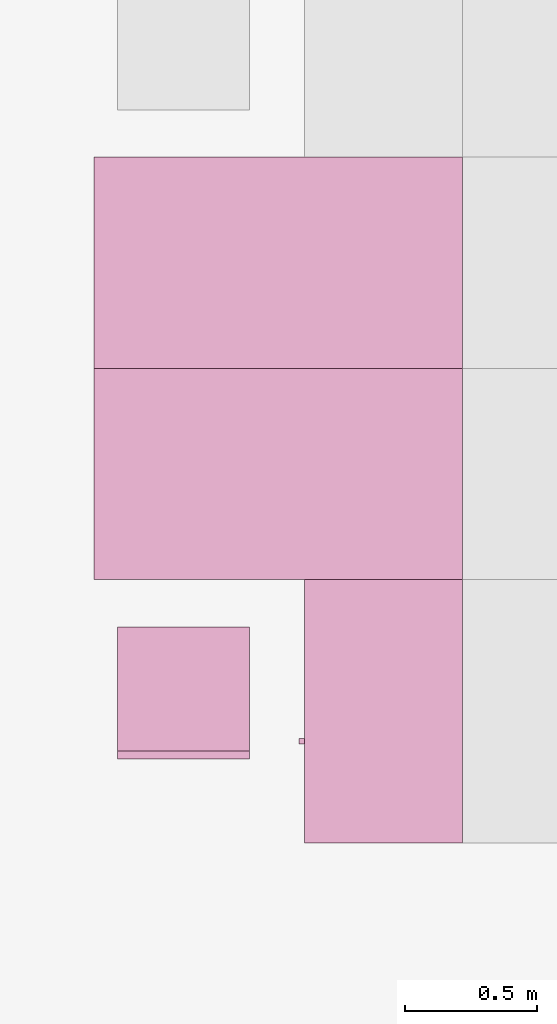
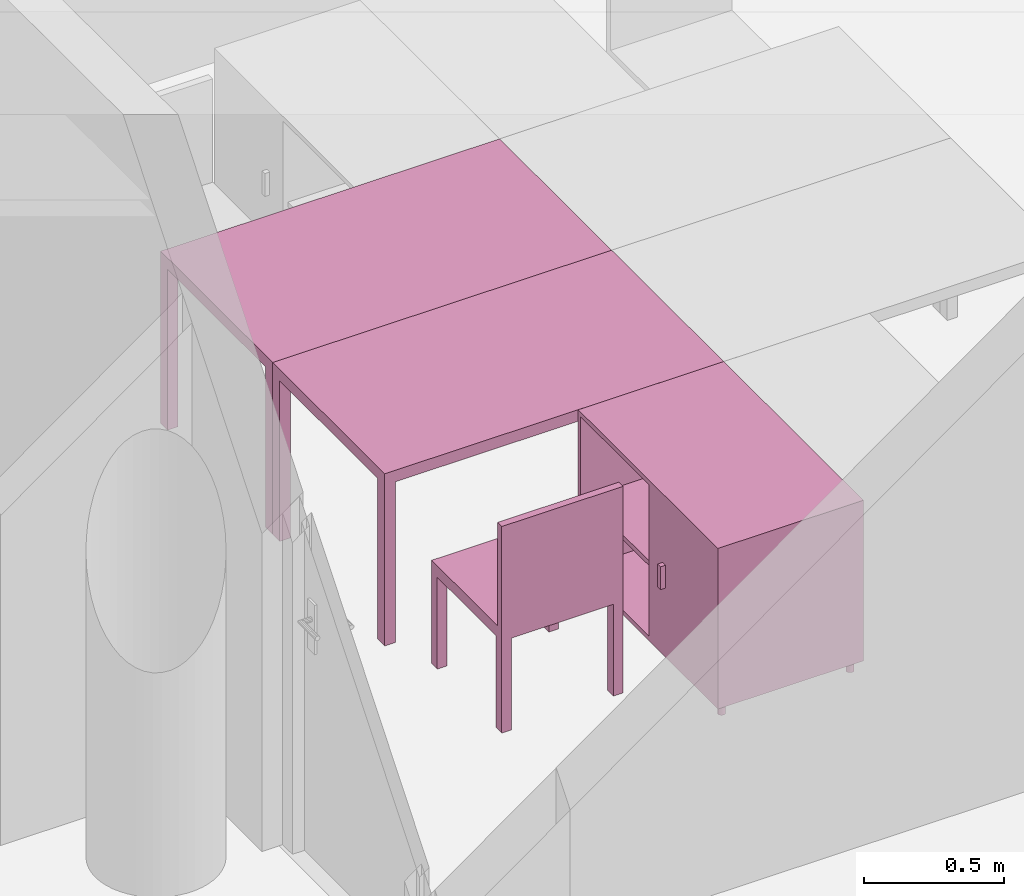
"""IFC4 building model written with IfcOpenShell, lengths in metres."""

from ifc_helpers import new_model, entity, si_unit, converted_unit, derived_unit, frame, origin, place, context, subcontext, project, spatial, faceted_brep, element, save


model = new_model("IFC4")

# Units and contexts
model_context = context("Model", 3, precision=1e-05, world=origin())
body_context = subcontext(model_context, "Body", "Model", "MODEL_VIEW")
ifc_project = project(units=[si_unit("LENGTHUNIT", "METRE"), si_unit("AREAUNIT", "SQUARE_METRE"), si_unit("VOLUMEUNIT", "CUBIC_METRE"), si_unit("MASSUNIT", "GRAM", prefix="KILO"), converted_unit("PLANEANGLEUNIT", "DEGREE", entity("IfcPlaneAngleMeasure", 0.0174532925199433), si_unit("PLANEANGLEUNIT", "RADIAN"), dimensions=[0, 0, 0, 0, 0, 0, 0]), derived_unit("THERMALTRANSMITTANCEUNIT", [(si_unit("POWERUNIT", "WATT"), 1), (si_unit("THERMODYNAMICTEMPERATUREUNIT", "KELVIN"), -1), (si_unit("LENGTHUNIT", "METRE"), -2)]), derived_unit("VOLUMETRICFLOWRATEUNIT", [(si_unit("LENGTHUNIT", "METRE"), 3), (converted_unit("TIMEUNIT", "hour", entity("IfcTimeMeasure", 3600.0), si_unit("TIMEUNIT", "SECOND"), dimensions=[0, 0, 1, 0, 0, 0, 0]), -1), (si_unit("LENGTHUNIT", "METRE"), -1)])], contexts=[model_context])

# Building, storeys
building_placement = place(None, origin())
building = spatial("IfcBuilding", under=ifc_project, at=building_placement, Name="HABITATGE PLURIFAMILIAR", CompositionType="ELEMENT")
storey_1_placement = place(building_placement, frame((0.0, 0.0, 6.25)))
storey_1 = spatial("IfcBuildingStorey", under=building, at=storey_1_placement, Name="PLANTA PRIMERA", CompositionType="ELEMENT", Elevation=6.25)
storey_2_placement = place(storey_1_placement, frame((0.0, 0.0, 3.35)))
storey_2 = spatial("IfcBuildingStorey", under=storey_1, at=storey_2_placement, Name="NOU", CompositionType="PARTIAL")

# Furniture
furniture_1_placement = place(storey_2_placement, frame((422.355885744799, 24.6290818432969, -3.35)))
element("IfcFurniture", 1, at=furniture_1_placement, inside=storey_2, Name="Taula 140X80_P1", context=body_context, shape_type="Brep", body=[
    faceted_brep([(0.04375, 0.750069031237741, 0.0), (0.04375, 0.800069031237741, 0.0), (0.0, 0.800069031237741, 0.0), (0.0, 0.750069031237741, 0.0), (0.04375, 0.800069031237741, 0.7), (0.04375, 0.750069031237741, 0.7), (0.0, 0.750069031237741, 0.7), (0.0, 0.800069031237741, 0.7)], [[[0, 1, 2, 3]], [[4, 5, 6, 7]], [[1, 0, 5, 4]], [[2, 1, 4, 7]], [[3, 2, 7, 6]], [[0, 3, 6, 5]]], orient=[[False], [False], [False], [False], [False], [False]]),
    faceted_brep([(0.04375, 0.0, 0.0), (0.04375, 0.05, 0.0), (0.0, 0.05, 0.0), (0.0, 0.0, 0.0), (0.04375, 0.05, 0.7), (0.04375, 0.0, 0.7), (0.0, 0.0, 0.7), (0.0, 0.05, 0.7)], [[[0, 1, 2, 3]], [[4, 5, 6, 7]], [[1, 0, 5, 4]], [[2, 1, 4, 7]], [[3, 2, 7, 6]], [[0, 3, 6, 5]]], orient=[[False], [False], [False], [False], [False], [False]]),
    faceted_brep([(1.39732768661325, 0.0, 0.7), (1.39732768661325, 0.800069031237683, 0.7), (0.0, 0.800069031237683, 0.7), (0.0, 0.0, 0.7), (1.39732768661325, 0.800069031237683, 0.75), (1.39732768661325, 0.0, 0.75), (0.0, 0.0, 0.75), (0.0, 0.800069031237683, 0.75)], [[[0, 1, 2, 3]], [[4, 5, 6, 7]], [[1, 0, 5, 4]], [[2, 1, 4, 7]], [[3, 2, 7, 6]], [[0, 3, 6, 5]]], orient=[[False], [False], [False], [False], [False], [False]]),
    faceted_brep([(1.39732768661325, 0.750069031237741, 0.0), (1.39732768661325, 0.800069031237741, 0.0), (1.35357768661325, 0.800069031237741, 0.0), (1.35357768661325, 0.750069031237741, 0.0), (1.39732768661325, 0.800069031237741, 0.7), (1.39732768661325, 0.750069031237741, 0.7), (1.35357768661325, 0.750069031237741, 0.7), (1.35357768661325, 0.800069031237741, 0.7)], [[[0, 1, 2, 3]], [[4, 5, 6, 7]], [[1, 0, 5, 4]], [[2, 1, 4, 7]], [[3, 2, 7, 6]], [[0, 3, 6, 5]]], orient=[[False], [False], [False], [False], [False], [False]]),
    faceted_brep([(1.39732768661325, 0.0, 0.0), (1.39732768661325, 0.05, 0.0), (1.35357768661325, 0.05, 0.0), (1.35357768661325, 0.0, 0.0), (1.39732768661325, 0.05, 0.7), (1.39732768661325, 0.0, 0.7), (1.35357768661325, 0.0, 0.7), (1.35357768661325, 0.05, 0.7)], [[[0, 1, 2, 3]], [[4, 5, 6, 7]], [[1, 0, 5, 4]], [[2, 1, 4, 7]], [[3, 2, 7, 6]], [[0, 3, 6, 5]]], orient=[[False], [False], [False], [False], [False], [False]]),
])
furniture_2_placement = place(storey_2_placement, frame((422.355885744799, 25.4291508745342, -3.35)))
element("IfcFurniture", 2, at=furniture_2_placement, inside=storey_2, Name="Taula 140X80_P1", context=body_context, shape_type="Brep", body=[
    faceted_brep([(0.04375, 0.05, 0.0), (0.0, 0.05, 0.0), (0.0, 0.0, 0.0), (0.04375, 0.0, 0.0), (0.04375, 0.0, 0.7), (0.0, 0.0, 0.7), (0.0, 0.05, 0.7), (0.04375, 0.05, 0.7)], [[[0, 1, 2, 3]], [[4, 5, 6, 7]], [[3, 4, 7, 0]], [[2, 5, 4, 3]], [[1, 6, 5, 2]], [[0, 7, 6, 1]]], orient=[[False], [False], [False], [False], [False], [False]]),
    faceted_brep([(0.04375, 0.800069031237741, 0.0), (0.0, 0.800069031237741, 0.0), (0.0, 0.750069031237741, 0.0), (0.04375, 0.750069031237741, 0.0), (0.04375, 0.750069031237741, 0.7), (0.0, 0.750069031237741, 0.7), (0.0, 0.800069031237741, 0.7), (0.04375, 0.800069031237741, 0.7)], [[[0, 1, 2, 3]], [[4, 5, 6, 7]], [[3, 4, 7, 0]], [[2, 5, 4, 3]], [[1, 6, 5, 2]], [[0, 7, 6, 1]]], orient=[[False], [False], [False], [False], [False], [False]]),
    faceted_brep([(1.39732768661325, 0.800069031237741, 0.7), (0.0, 0.800069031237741, 0.7), (0.0, 0.0, 0.7), (1.39732768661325, 0.0, 0.7), (1.39732768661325, 0.0, 0.75), (0.0, 0.0, 0.75), (0.0, 0.800069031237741, 0.75), (1.39732768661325, 0.800069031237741, 0.75)], [[[0, 1, 2, 3]], [[4, 5, 6, 7]], [[3, 4, 7, 0]], [[2, 5, 4, 3]], [[1, 6, 5, 2]], [[0, 7, 6, 1]]], orient=[[False], [False], [False], [False], [False], [False]]),
    faceted_brep([(1.39732768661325, 0.05, 0.0), (1.35357768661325, 0.05, 0.0), (1.35357768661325, 0.0, 0.0), (1.39732768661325, 0.0, 0.0), (1.39732768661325, 0.0, 0.7), (1.35357768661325, 0.0, 0.7), (1.35357768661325, 0.05, 0.7), (1.39732768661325, 0.05, 0.7)], [[[0, 1, 2, 3]], [[4, 5, 6, 7]], [[3, 4, 7, 0]], [[2, 5, 4, 3]], [[1, 6, 5, 2]], [[0, 7, 6, 1]]], orient=[[False], [False], [False], [False], [False], [False]]),
    faceted_brep([(1.39732768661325, 0.800069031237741, 0.0), (1.35357768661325, 0.800069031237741, 0.0), (1.35357768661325, 0.750069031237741, 0.0), (1.39732768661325, 0.750069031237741, 0.0), (1.39732768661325, 0.750069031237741, 0.7), (1.35357768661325, 0.750069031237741, 0.7), (1.35357768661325, 0.800069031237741, 0.7), (1.39732768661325, 0.800069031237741, 0.7)], [[[0, 1, 2, 3]], [[4, 5, 6, 7]], [[3, 4, 7, 0]], [[2, 5, 4, 3]], [[1, 6, 5, 2]], [[0, 7, 6, 1]]], orient=[[False], [False], [False], [False], [False], [False]]),
])
furniture_3_placement = place(storey_2_placement, frame((423.133213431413, 23.6321359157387, -3.35)))
element("IfcFurniture", 3, at=furniture_3_placement, inside=storey_2, Name="Taula 100X60_P1", context=body_context, shape_type="Brep", body=[
    faceted_brep([(0.620000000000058, 1.00000000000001, 0.05), (0.620000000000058, 1.00000000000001, 0.07), (0.02, 1.00000000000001, 0.07), (0.02, 1.00000000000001, 0.05), (0.02, 0.0, 0.07), (0.02, 0.0, 0.05), (0.620000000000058, 0.0, 0.07), (0.620000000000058, 0.0, 0.05)], [[[0, 1, 2, 3]], [[3, 2, 4, 5]], [[5, 4, 6, 7]], [[7, 6, 1, 0]], [[0, 3, 5, 7]], [[1, 6, 4, 2]]], orient=[[False], [False], [False], [False], [False], [False]]),
    faceted_brep([(0.04, 1.00000000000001, 0.35), (0.04, 0.0, 0.35), (0.62, 0.0, 0.35), (0.62, 1.00000000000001, 0.35), (0.62, 1.00000000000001, 0.37), (0.62, 0.0, 0.37), (0.04, 0.0, 0.37), (0.04, 1.00000000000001, 0.37)], [[[0, 1, 2, 3]], [[4, 5, 6, 7]], [[3, 4, 7, 0]], [[2, 5, 4, 3]], [[1, 6, 5, 2]], [[0, 7, 6, 1]]], orient=[[False], [False], [False], [False], [False], [False]]),
    faceted_brep([(0.04, 0.49, 0.75), (0.02, 0.49, 0.75), (0.02, 0.49, 0.05), (0.04, 0.49, 0.05), (0.02, 0.0, 0.05), (0.04, 0.0, 0.05), (0.02, 0.0, 0.75), (0.04, 0.0, 0.75)], [[[0, 1, 2, 3]], [[3, 2, 4, 5]], [[5, 4, 6, 7]], [[7, 6, 1, 0]], [[0, 3, 5, 7]], [[1, 6, 4, 2]]], orient=[[False], [False], [False], [False], [False], [False]]),
    faceted_brep([(0.62, 0.98, 0.75), (0.62, 1.0, 0.75), (0.620000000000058, 1.0, 0.0499999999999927), (0.620000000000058, 0.98, 0.0499999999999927), (0.02, 1.00000000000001, 0.05), (0.02, 0.980000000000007, 0.05), (0.02, 1.00000000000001, 0.75), (0.02, 0.980000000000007, 0.75)], [[[0, 1, 2, 3]], [[3, 2, 4, 5]], [[5, 4, 6, 7]], [[7, 6, 1, 0]], [[0, 3, 5, 7]], [[1, 6, 4, 2]]], orient=[[False], [False], [False], [False], [False], [False]]),
    faceted_brep([(0.62, 0.47, 0.75), (0.62, 0.49, 0.75), (0.620000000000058, 0.49, 0.0499999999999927), (0.620000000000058, 0.47, 0.0499999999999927), (0.02, 0.490000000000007, 0.05), (0.02, 0.470000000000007, 0.05), (0.02, 0.490000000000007, 0.75), (0.02, 0.470000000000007, 0.75)], [[[0, 1, 2, 3]], [[3, 2, 4, 5]], [[5, 4, 6, 7]], [[7, 6, 1, 0]], [[0, 3, 5, 7]], [[1, 6, 4, 2]]], orient=[[False], [False], [False], [False], [False], [False]]),
    faceted_brep([(0.620000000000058, 0.469999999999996, 0.75000000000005), (0.620000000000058, 0.490000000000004, 0.75000000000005), (0.620000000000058, 0.490000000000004, 0.0499999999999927), (0.620000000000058, 0.469999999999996, 0.0499999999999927), (0.0400000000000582, 0.49, 0.0499999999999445), (0.0400000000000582, 0.469999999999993, 0.0499999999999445), (0.04, 0.49, 0.750000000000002), (0.04, 0.469999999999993, 0.750000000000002)], [[[0, 1, 2, 3]], [[3, 2, 4, 5]], [[5, 4, 6, 7]], [[7, 6, 1, 0]], [[0, 3, 5, 7]], [[1, 6, 4, 2]]], orient=[[False], [False], [False], [False], [False], [False]]),
    faceted_brep([(0.62, 0.0, 0.75), (0.62, 0.02, 0.75), (0.620000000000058, 0.02, 0.0499999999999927), (0.620000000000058, 0.0, 0.0499999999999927), (0.02, 0.0200000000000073, 0.05), (0.02, 0.0, 0.05), (0.02, 0.0200000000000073, 0.75), (0.02, 0.0, 0.75)], [[[0, 1, 2, 3]], [[3, 2, 4, 5]], [[5, 4, 6, 7]], [[7, 6, 1, 0]], [[0, 3, 5, 7]], [[1, 6, 4, 2]]], orient=[[False], [False], [False], [False], [False], [False]]),
    faceted_brep([(0.620000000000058, 1.00000000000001, 0.73), (0.620000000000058, 1.00000000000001, 0.75), (0.02, 1.00000000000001, 0.75), (0.02, 1.00000000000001, 0.73), (0.02, 0.0, 0.75), (0.02, 0.0, 0.73), (0.620000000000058, 0.0, 0.75), (0.620000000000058, 0.0, 0.73)], [[[0, 1, 2, 3]], [[3, 2, 4, 5]], [[5, 4, 6, 7]], [[7, 6, 1, 0]], [[0, 3, 5, 7]], [[1, 6, 4, 2]]], orient=[[False], [False], [False], [False], [False], [False]]),
    faceted_brep([(0.62, 0.980000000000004, 0.75), (0.6, 0.980000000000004, 0.75), (0.6, 0.980000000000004, 0.05), (0.62, 0.980000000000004, 0.05), (0.6, 0.0, 0.05), (0.62, 0.0, 0.05), (0.6, 0.0, 0.75), (0.62, 0.0, 0.75)], [[[0, 1, 2, 3]], [[3, 2, 4, 5]], [[5, 4, 6, 7]], [[7, 6, 1, 0]], [[0, 3, 5, 7]], [[1, 6, 4, 2]]], orient=[[False], [False], [False], [False], [False], [False]]),
    faceted_brep([(0.02, 0.374420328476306, 0.35), (0.02, 0.394420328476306, 0.35), (0.0, 0.394420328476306, 0.35), (0.0, 0.374420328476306, 0.35), (0.02, 0.394420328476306, 0.45), (0.02, 0.374420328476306, 0.45), (0.0, 0.374420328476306, 0.45), (0.0, 0.394420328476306, 0.45)], [[[0, 1, 2, 3]], [[4, 5, 6, 7]], [[1, 0, 5, 4]], [[2, 1, 4, 7]], [[3, 2, 7, 6]], [[0, 3, 6, 5]]], orient=[[False], [False], [False], [False], [False], [False]]),
    faceted_brep([(0.583821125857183, 0.950063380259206, 0.0), (0.586415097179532, 0.950290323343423, 0.0), (0.588930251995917, 0.950964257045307, 0.0), (0.591290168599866, 0.952064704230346, 0.0), (0.59342314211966, 0.953558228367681, 0.0), (0.595264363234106, 0.95539944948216, 0.0), (0.596757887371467, 0.957532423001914, 0.0), (0.597858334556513, 0.959892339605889, 0.0), (0.598532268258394, 0.962407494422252, 0.0), (0.598759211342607, 0.965001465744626, 0.0), (0.598532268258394, 0.967595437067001, 0.0), (0.597858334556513, 0.970110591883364, 0.0), (0.596757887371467, 0.972470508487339, 0.0), (0.595264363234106, 0.974603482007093, 0.0), (0.59342314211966, 0.976444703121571, 0.0), (0.591290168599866, 0.977938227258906, 0.0), (0.588930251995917, 0.979038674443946, 0.0), (0.586415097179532, 0.97971260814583, 0.0), (0.583821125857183, 0.979939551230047, 0.0), (0.581227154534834, 0.97971260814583, 0.0), (0.578711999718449, 0.979038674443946, 0.0), (0.5763520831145, 0.977938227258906, 0.0), (0.574219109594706, 0.976444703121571, 0.0), (0.57237788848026, 0.974603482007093, 0.0), (0.570884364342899, 0.972470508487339, 0.0), (0.569783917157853, 0.970110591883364, 0.0), (0.569109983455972, 0.967595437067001, 0.0), (0.568883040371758, 0.965001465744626, 0.0), (0.569109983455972, 0.962407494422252, 0.0), (0.569783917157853, 0.959892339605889, 0.0), (0.570884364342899, 0.957532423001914, 0.0), (0.57237788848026, 0.95539944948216, 0.0), (0.574219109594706, 0.953558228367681, 0.0), (0.5763520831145, 0.952064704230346, 0.0), (0.578711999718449, 0.950964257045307, 0.0), (0.581227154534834, 0.950290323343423, 0.0), (0.583821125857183, 0.950063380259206, 0.05), (0.581227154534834, 0.950290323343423, 0.05), (0.578711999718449, 0.950964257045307, 0.05), (0.5763520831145, 0.952064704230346, 0.05), (0.574219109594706, 0.953558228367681, 0.05), (0.57237788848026, 0.95539944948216, 0.05), (0.570884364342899, 0.957532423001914, 0.05), (0.569783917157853, 0.959892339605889, 0.05), (0.569109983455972, 0.962407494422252, 0.05), (0.568883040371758, 0.965001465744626, 0.05), (0.569109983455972, 0.967595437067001, 0.05), (0.569783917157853, 0.970110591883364, 0.05), (0.570884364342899, 0.972470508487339, 0.05), (0.57237788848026, 0.974603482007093, 0.05), (0.574219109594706, 0.976444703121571, 0.05), (0.5763520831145, 0.977938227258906, 0.05), (0.578711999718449, 0.979038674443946, 0.05), (0.581227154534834, 0.97971260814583, 0.05), (0.583821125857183, 0.979939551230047, 0.05), (0.586415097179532, 0.97971260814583, 0.05), (0.588930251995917, 0.979038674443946, 0.05), (0.591290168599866, 0.977938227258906, 0.05), (0.59342314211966, 0.976444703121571, 0.05), (0.595264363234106, 0.974603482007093, 0.05), (0.596757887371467, 0.972470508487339, 0.05), (0.597858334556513, 0.970110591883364, 0.05), (0.598532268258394, 0.967595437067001, 0.05), (0.598759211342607, 0.965001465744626, 0.05), (0.598532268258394, 0.962407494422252, 0.05), (0.597858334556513, 0.959892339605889, 0.05), (0.596757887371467, 0.957532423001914, 0.05), (0.595264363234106, 0.95539944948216, 0.05), (0.59342314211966, 0.953558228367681, 0.05), (0.591290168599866, 0.952064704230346, 0.05), (0.588930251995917, 0.950964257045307, 0.05), (0.586415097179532, 0.950290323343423, 0.05)], [[[0, 1, 2, 3, 4, 5, 6, 7, 8, 9, 10, 11, 12, 13, 14, 15, 16, 17, 18, 19, 20, 21, 22, 23, 24, 25, 26, 27, 28, 29, 30, 31, 32, 33, 34, 35]], [[36, 37, 38, 39, 40, 41, 42, 43, 44, 45, 46, 47, 48, 49, 50, 51, 52, 53, 54, 55, 56, 57, 58, 59, 60, 61, 62, 63, 64, 65, 66, 67, 68, 69, 70, 71]], [[35, 37, 36, 0]], [[34, 38, 37, 35]], [[33, 39, 38, 34]], [[32, 40, 39, 33]], [[31, 41, 40, 32]], [[30, 42, 41, 31]], [[29, 43, 42, 30]], [[28, 44, 43, 29]], [[27, 45, 44, 28]], [[26, 46, 45, 27]], [[25, 47, 46, 26]], [[24, 48, 47, 25]], [[23, 49, 48, 24]], [[22, 50, 49, 23]], [[21, 51, 50, 22]], [[20, 52, 51, 21]], [[19, 53, 52, 20]], [[18, 54, 53, 19]], [[17, 55, 54, 18]], [[16, 56, 55, 17]], [[15, 57, 56, 16]], [[14, 58, 57, 15]], [[13, 59, 58, 14]], [[12, 60, 59, 13]], [[11, 61, 60, 12]], [[10, 62, 61, 11]], [[9, 63, 62, 10]], [[8, 64, 63, 9]], [[7, 65, 64, 8]], [[6, 66, 65, 7]], [[5, 67, 66, 6]], [[4, 68, 67, 5]], [[3, 69, 68, 4]], [[2, 70, 69, 3]], [[1, 71, 70, 2]], [[0, 36, 71, 1]]], orient=[[False], [False], [False], [False], [False], [False], [False], [False], [False], [False], [False], [False], [False], [False], [False], [False], [False], [False], [False], [False], [False], [False], [False], [False], [False], [False], [False], [False], [False], [False], [False], [False], [False], [False], [False], [False], [False], [False]]),
    faceted_brep([(0.0538211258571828, 0.950063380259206, 0.0), (0.0564150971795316, 0.950290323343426, 0.0), (0.0589302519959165, 0.950964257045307, 0.0), (0.0612901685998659, 0.952064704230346, 0.0), (0.06342314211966, 0.953558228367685, 0.0), (0.065264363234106, 0.95539944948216, 0.0), (0.0667578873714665, 0.957532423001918, 0.0), (0.067858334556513, 0.959892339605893, 0.0), (0.0685322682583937, 0.962407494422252, 0.0), (0.0687592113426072, 0.96500146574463, 0.0), (0.0685322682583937, 0.967595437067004, 0.0), (0.067858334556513, 0.970110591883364, 0.0), (0.0667578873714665, 0.972470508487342, 0.0), (0.065264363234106, 0.974603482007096, 0.0), (0.06342314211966, 0.976444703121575, 0.0), (0.0612901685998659, 0.977938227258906, 0.0), (0.0589302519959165, 0.979038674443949, 0.0), (0.0564150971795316, 0.979712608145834, 0.0), (0.0538211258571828, 0.979939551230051, 0.0), (0.051227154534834, 0.979712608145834, 0.0), (0.0487119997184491, 0.979038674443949, 0.0), (0.0463520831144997, 0.977938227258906, 0.0), (0.0442191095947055, 0.976444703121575, 0.0), (0.0423778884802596, 0.974603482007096, 0.0), (0.0408843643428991, 0.972470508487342, 0.0), (0.0397839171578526, 0.970110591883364, 0.0), (0.0391099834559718, 0.967595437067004, 0.0), (0.0388830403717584, 0.96500146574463, 0.0), (0.0391099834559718, 0.962407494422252, 0.0), (0.0397839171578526, 0.959892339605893, 0.0), (0.0408843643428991, 0.957532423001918, 0.0), (0.0423778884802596, 0.95539944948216, 0.0), (0.0442191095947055, 0.953558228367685, 0.0), (0.0463520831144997, 0.952064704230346, 0.0), (0.0487119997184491, 0.950964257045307, 0.0), (0.051227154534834, 0.950290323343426, 0.0), (0.0538211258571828, 0.950063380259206, 0.05), (0.051227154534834, 0.950290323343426, 0.05), (0.0487119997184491, 0.950964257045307, 0.05), (0.0463520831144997, 0.952064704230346, 0.05), (0.0442191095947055, 0.953558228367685, 0.05), (0.0423778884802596, 0.95539944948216, 0.05), (0.0408843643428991, 0.957532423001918, 0.05), (0.0397839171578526, 0.959892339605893, 0.05), (0.0391099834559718, 0.962407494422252, 0.05), (0.0388830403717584, 0.96500146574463, 0.05), (0.0391099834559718, 0.967595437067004, 0.05), (0.0397839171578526, 0.970110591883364, 0.05), (0.0408843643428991, 0.972470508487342, 0.05), (0.0423778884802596, 0.974603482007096, 0.05), (0.0442191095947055, 0.976444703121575, 0.05), (0.0463520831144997, 0.977938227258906, 0.05), (0.0487119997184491, 0.979038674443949, 0.05), (0.051227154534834, 0.979712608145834, 0.05), (0.0538211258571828, 0.979939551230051, 0.05), (0.0564150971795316, 0.979712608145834, 0.05), (0.0589302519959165, 0.979038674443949, 0.05), (0.0612901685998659, 0.977938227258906, 0.05), (0.06342314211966, 0.976444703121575, 0.05), (0.065264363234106, 0.974603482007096, 0.05), (0.0667578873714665, 0.972470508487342, 0.05), (0.067858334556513, 0.970110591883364, 0.05), (0.0685322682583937, 0.967595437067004, 0.05), (0.0687592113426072, 0.96500146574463, 0.05), (0.0685322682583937, 0.962407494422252, 0.05), (0.067858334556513, 0.959892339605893, 0.05), (0.0667578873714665, 0.957532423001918, 0.05), (0.065264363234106, 0.95539944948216, 0.05), (0.06342314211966, 0.953558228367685, 0.05), (0.0612901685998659, 0.952064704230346, 0.05), (0.0589302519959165, 0.950964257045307, 0.05), (0.0564150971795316, 0.950290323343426, 0.05)], [[[0, 1, 2, 3, 4, 5, 6, 7, 8, 9, 10, 11, 12, 13, 14, 15, 16, 17, 18, 19, 20, 21, 22, 23, 24, 25, 26, 27, 28, 29, 30, 31, 32, 33, 34, 35]], [[36, 37, 38, 39, 40, 41, 42, 43, 44, 45, 46, 47, 48, 49, 50, 51, 52, 53, 54, 55, 56, 57, 58, 59, 60, 61, 62, 63, 64, 65, 66, 67, 68, 69, 70, 71]], [[35, 37, 36, 0]], [[34, 38, 37, 35]], [[33, 39, 38, 34]], [[32, 40, 39, 33]], [[31, 41, 40, 32]], [[30, 42, 41, 31]], [[29, 43, 42, 30]], [[28, 44, 43, 29]], [[27, 45, 44, 28]], [[26, 46, 45, 27]], [[25, 47, 46, 26]], [[24, 48, 47, 25]], [[23, 49, 48, 24]], [[22, 50, 49, 23]], [[21, 51, 50, 22]], [[20, 52, 51, 21]], [[19, 53, 52, 20]], [[18, 54, 53, 19]], [[17, 55, 54, 18]], [[16, 56, 55, 17]], [[15, 57, 56, 16]], [[14, 58, 57, 15]], [[13, 59, 58, 14]], [[12, 60, 59, 13]], [[11, 61, 60, 12]], [[10, 62, 61, 11]], [[9, 63, 62, 10]], [[8, 64, 63, 9]], [[7, 65, 64, 8]], [[6, 66, 65, 7]], [[5, 67, 66, 6]], [[4, 68, 67, 5]], [[3, 69, 68, 4]], [[2, 70, 69, 3]], [[1, 71, 70, 2]], [[0, 36, 71, 1]]], orient=[[False], [False], [False], [False], [False], [False], [False], [False], [False], [False], [False], [False], [False], [False], [False], [False], [False], [False], [False], [False], [False], [False], [False], [False], [False], [False], [False], [False], [False], [False], [False], [False], [False], [False], [False], [False], [False], [False]]),
    faceted_brep([(0.0550000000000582, 0.0200170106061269, 0.0), (0.057593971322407, 0.0202439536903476, 0.0), (0.0601091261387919, 0.0209178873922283, 0.0), (0.0624690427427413, 0.0220183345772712, 0.0), (0.0646020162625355, 0.0235118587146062, 0.0), (0.0664432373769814, 0.0253530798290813, 0.0), (0.0679367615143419, 0.0274860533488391, 0.0), (0.0690372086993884, 0.0298459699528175, 0.0), (0.0697111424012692, 0.0323611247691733, 0.0), (0.0699380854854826, 0.0349550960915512, 0.0), (0.0697111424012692, 0.0375490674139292, 0.0), (0.0690372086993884, 0.0400642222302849, 0.0), (0.0679367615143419, 0.0424241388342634, 0.0), (0.0664432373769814, 0.0445571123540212, 0.0), (0.0646020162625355, 0.0463983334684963, 0.0), (0.0624690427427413, 0.0478918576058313, 0.0), (0.0601091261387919, 0.0489923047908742, 0.0), (0.057593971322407, 0.0496662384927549, 0.0), (0.0550000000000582, 0.0498931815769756, 0.0), (0.0524060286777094, 0.0496662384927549, 0.0), (0.0498908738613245, 0.0489923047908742, 0.0), (0.0475309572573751, 0.0478918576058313, 0.0), (0.0453979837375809, 0.0463983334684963, 0.0), (0.043556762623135, 0.0445571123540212, 0.0), (0.0420632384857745, 0.0424241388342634, 0.0), (0.040962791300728, 0.0400642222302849, 0.0), (0.0402888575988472, 0.0375490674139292, 0.0), (0.0400619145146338, 0.0349550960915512, 0.0), (0.0402888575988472, 0.0323611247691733, 0.0), (0.040962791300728, 0.0298459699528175, 0.0), (0.0420632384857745, 0.0274860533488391, 0.0), (0.043556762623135, 0.0253530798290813, 0.0), (0.0453979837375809, 0.0235118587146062, 0.0), (0.0475309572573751, 0.0220183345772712, 0.0), (0.0498908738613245, 0.0209178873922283, 0.0), (0.0524060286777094, 0.0202439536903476, 0.0), (0.0550000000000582, 0.0200170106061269, 0.05), (0.0524060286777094, 0.0202439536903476, 0.05), (0.0498908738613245, 0.0209178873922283, 0.05), (0.0475309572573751, 0.0220183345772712, 0.05), (0.0453979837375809, 0.0235118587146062, 0.05), (0.043556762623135, 0.0253530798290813, 0.05), (0.0420632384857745, 0.0274860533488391, 0.05), (0.040962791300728, 0.0298459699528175, 0.05), (0.0402888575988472, 0.0323611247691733, 0.05), (0.0400619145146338, 0.0349550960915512, 0.05), (0.0402888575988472, 0.0375490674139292, 0.05), (0.040962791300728, 0.0400642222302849, 0.05), (0.0420632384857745, 0.0424241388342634, 0.05), (0.043556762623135, 0.0445571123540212, 0.05), (0.0453979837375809, 0.0463983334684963, 0.05), (0.0475309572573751, 0.0478918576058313, 0.05), (0.0498908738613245, 0.0489923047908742, 0.05), (0.0524060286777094, 0.0496662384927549, 0.05), (0.0550000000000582, 0.0498931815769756, 0.05), (0.057593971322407, 0.0496662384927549, 0.05), (0.0601091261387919, 0.0489923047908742, 0.05), (0.0624690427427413, 0.0478918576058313, 0.05), (0.0646020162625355, 0.0463983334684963, 0.05), (0.0664432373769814, 0.0445571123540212, 0.05), (0.0679367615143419, 0.0424241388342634, 0.05), (0.0690372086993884, 0.0400642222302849, 0.05), (0.0697111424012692, 0.0375490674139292, 0.05), (0.0699380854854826, 0.0349550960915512, 0.05), (0.0697111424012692, 0.0323611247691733, 0.05), (0.0690372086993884, 0.0298459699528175, 0.05), (0.0679367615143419, 0.0274860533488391, 0.05), (0.0664432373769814, 0.0253530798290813, 0.05), (0.0646020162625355, 0.0235118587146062, 0.05), (0.0624690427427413, 0.0220183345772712, 0.05), (0.0601091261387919, 0.0209178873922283, 0.05), (0.057593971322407, 0.0202439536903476, 0.05)], [[[0, 1, 2, 3, 4, 5, 6, 7, 8, 9, 10, 11, 12, 13, 14, 15, 16, 17, 18, 19, 20, 21, 22, 23, 24, 25, 26, 27, 28, 29, 30, 31, 32, 33, 34, 35]], [[36, 37, 38, 39, 40, 41, 42, 43, 44, 45, 46, 47, 48, 49, 50, 51, 52, 53, 54, 55, 56, 57, 58, 59, 60, 61, 62, 63, 64, 65, 66, 67, 68, 69, 70, 71]], [[35, 37, 36, 0]], [[34, 38, 37, 35]], [[33, 39, 38, 34]], [[32, 40, 39, 33]], [[31, 41, 40, 32]], [[30, 42, 41, 31]], [[29, 43, 42, 30]], [[28, 44, 43, 29]], [[27, 45, 44, 28]], [[26, 46, 45, 27]], [[25, 47, 46, 26]], [[24, 48, 47, 25]], [[23, 49, 48, 24]], [[22, 50, 49, 23]], [[21, 51, 50, 22]], [[20, 52, 51, 21]], [[19, 53, 52, 20]], [[18, 54, 53, 19]], [[17, 55, 54, 18]], [[16, 56, 55, 17]], [[15, 57, 56, 16]], [[14, 58, 57, 15]], [[13, 59, 58, 14]], [[12, 60, 59, 13]], [[11, 61, 60, 12]], [[10, 62, 61, 11]], [[9, 63, 62, 10]], [[8, 64, 63, 9]], [[7, 65, 64, 8]], [[6, 66, 65, 7]], [[5, 67, 66, 6]], [[4, 68, 67, 5]], [[3, 69, 68, 4]], [[2, 70, 69, 3]], [[1, 71, 70, 2]], [[0, 36, 71, 1]]], orient=[[False], [False], [False], [False], [False], [False], [False], [False], [False], [False], [False], [False], [False], [False], [False], [False], [False], [False], [False], [False], [False], [False], [False], [False], [False], [False], [False], [False], [False], [False], [False], [False], [False], [False], [False], [False], [False], [False]]),
    faceted_brep([(0.585033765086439, 0.0203520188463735, 0.0), (0.587627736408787, 0.0205789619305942, 0.0), (0.590142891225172, 0.021252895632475, 0.0), (0.592502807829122, 0.0223533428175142, 0.0), (0.594635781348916, 0.0238468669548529, 0.0), (0.596477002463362, 0.0256880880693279, 0.0), (0.597970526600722, 0.0278210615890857, 0.0), (0.599070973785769, 0.0301809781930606, 0.0), (0.59974490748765, 0.03269613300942, 0.0), (0.599971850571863, 0.0352901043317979, 0.0), (0.59974490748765, 0.0378840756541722, 0.0), (0.599070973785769, 0.0403992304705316, 0.0), (0.597970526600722, 0.0427591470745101, 0.0), (0.596477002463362, 0.0448921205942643, 0.0), (0.594635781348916, 0.046733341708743, 0.0), (0.592502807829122, 0.0482268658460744, 0.0), (0.590142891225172, 0.0493273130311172, 0.0), (0.587627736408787, 0.0500012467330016, 0.0), (0.585033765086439, 0.0502281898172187, 0.0), (0.58243979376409, 0.0500012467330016, 0.0), (0.579924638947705, 0.0493273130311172, 0.0), (0.577564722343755, 0.0482268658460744, 0.0), (0.575431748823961, 0.046733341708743, 0.0), (0.573590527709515, 0.0448921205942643, 0.0), (0.572097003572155, 0.0427591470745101, 0.0), (0.570996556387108, 0.0403992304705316, 0.0), (0.570322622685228, 0.0378840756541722, 0.0), (0.570095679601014, 0.0352901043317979, 0.0), (0.570322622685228, 0.03269613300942, 0.0), (0.570996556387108, 0.0301809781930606, 0.0), (0.572097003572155, 0.0278210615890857, 0.0), (0.573590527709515, 0.0256880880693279, 0.0), (0.575431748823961, 0.0238468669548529, 0.0), (0.577564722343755, 0.0223533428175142, 0.0), (0.579924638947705, 0.021252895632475, 0.0), (0.58243979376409, 0.0205789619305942, 0.0), (0.585033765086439, 0.0203520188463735, 0.05), (0.58243979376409, 0.0205789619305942, 0.05), (0.579924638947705, 0.021252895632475, 0.05), (0.577564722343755, 0.0223533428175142, 0.05), (0.575431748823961, 0.0238468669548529, 0.05), (0.573590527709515, 0.0256880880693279, 0.05), (0.572097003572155, 0.0278210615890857, 0.05), (0.570996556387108, 0.0301809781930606, 0.05), (0.570322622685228, 0.03269613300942, 0.05), (0.570095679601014, 0.0352901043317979, 0.05), (0.570322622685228, 0.0378840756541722, 0.05), (0.570996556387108, 0.0403992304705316, 0.05), (0.572097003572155, 0.0427591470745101, 0.05), (0.573590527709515, 0.0448921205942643, 0.05), (0.575431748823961, 0.046733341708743, 0.05), (0.577564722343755, 0.0482268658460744, 0.05), (0.579924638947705, 0.0493273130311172, 0.05), (0.58243979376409, 0.0500012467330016, 0.05), (0.585033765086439, 0.0502281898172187, 0.05), (0.587627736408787, 0.0500012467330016, 0.05), (0.590142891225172, 0.0493273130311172, 0.05), (0.592502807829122, 0.0482268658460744, 0.05), (0.594635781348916, 0.046733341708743, 0.05), (0.596477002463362, 0.0448921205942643, 0.05), (0.597970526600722, 0.0427591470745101, 0.05), (0.599070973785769, 0.0403992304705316, 0.05), (0.59974490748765, 0.0378840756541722, 0.05), (0.599971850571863, 0.0352901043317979, 0.05), (0.59974490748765, 0.03269613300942, 0.05), (0.599070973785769, 0.0301809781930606, 0.05), (0.597970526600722, 0.0278210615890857, 0.05), (0.596477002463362, 0.0256880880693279, 0.05), (0.594635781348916, 0.0238468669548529, 0.05), (0.592502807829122, 0.0223533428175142, 0.05), (0.590142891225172, 0.021252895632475, 0.05), (0.587627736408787, 0.0205789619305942, 0.05)], [[[0, 1, 2, 3, 4, 5, 6, 7, 8, 9, 10, 11, 12, 13, 14, 15, 16, 17, 18, 19, 20, 21, 22, 23, 24, 25, 26, 27, 28, 29, 30, 31, 32, 33, 34, 35]], [[36, 37, 38, 39, 40, 41, 42, 43, 44, 45, 46, 47, 48, 49, 50, 51, 52, 53, 54, 55, 56, 57, 58, 59, 60, 61, 62, 63, 64, 65, 66, 67, 68, 69, 70, 71]], [[35, 37, 36, 0]], [[34, 38, 37, 35]], [[33, 39, 38, 34]], [[32, 40, 39, 33]], [[31, 41, 40, 32]], [[30, 42, 41, 31]], [[29, 43, 42, 30]], [[28, 44, 43, 29]], [[27, 45, 44, 28]], [[26, 46, 45, 27]], [[25, 47, 46, 26]], [[24, 48, 47, 25]], [[23, 49, 48, 24]], [[22, 50, 49, 23]], [[21, 51, 50, 22]], [[20, 52, 51, 21]], [[19, 53, 52, 20]], [[18, 54, 53, 19]], [[17, 55, 54, 18]], [[16, 56, 55, 17]], [[15, 57, 56, 16]], [[14, 58, 57, 15]], [[13, 59, 58, 14]], [[12, 60, 59, 13]], [[11, 61, 60, 12]], [[10, 62, 61, 11]], [[9, 63, 62, 10]], [[8, 64, 63, 9]], [[7, 65, 64, 8]], [[6, 66, 65, 7]], [[5, 67, 66, 6]], [[4, 68, 67, 5]], [[3, 69, 68, 4]], [[2, 70, 69, 3]], [[1, 71, 70, 2]], [[0, 36, 71, 1]]], orient=[[False], [False], [False], [False], [False], [False], [False], [False], [False], [False], [False], [False], [False], [False], [False], [False], [False], [False], [False], [False], [False], [False], [False], [False], [False], [False], [False], [False], [False], [False], [False], [False], [False], [False], [False], [False], [False], [False]]),
])
furniture_4_placement = place(storey_2_placement, frame((422.445691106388, 23.9498267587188, -3.34942958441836)))
element("IfcFurniture", 4, at=furniture_4_placement, inside=storey_2, Name="Cadira d'Oficina_P1", context=body_context, shape_type="Brep", body=[
    faceted_brep([(0.5, 0.5, 0.4), (0.0, 0.5, 0.4), (0.0, 0.0, 0.4), (0.5, 0.0, 0.4), (0.5, 0.0, 0.45), (0.0, 0.0, 0.45), (0.0, 0.5, 0.45), (0.5, 0.5, 0.45)], [[[0, 1, 2, 3]], [[4, 5, 6, 7]], [[3, 4, 7, 0]], [[2, 5, 4, 3]], [[1, 6, 5, 2]], [[0, 7, 6, 1]]], orient=[[False], [False], [False], [False], [False], [False]]),
    faceted_brep([(0.0, 0.04, 0.0), (0.0, 0.0, 0.0), (0.04, 0.0, 0.0), (0.04, 0.04, 0.0), (0.04, 0.04, 0.4), (0.04, 0.0, 0.4), (0.0, 0.0, 0.4), (0.0, 0.04, 0.4)], [[[0, 1, 2, 3]], [[4, 5, 6, 7]], [[3, 4, 7, 0]], [[2, 5, 4, 3]], [[1, 6, 5, 2]], [[0, 7, 6, 1]]], orient=[[False], [False], [False], [False], [False], [False]]),
    faceted_brep([(0.0, 0.5, 0.0), (0.0, 0.46, 0.0), (0.04, 0.46, 0.0), (0.04, 0.5, 0.0), (0.04, 0.5, 0.4), (0.04, 0.46, 0.4), (0.0, 0.46, 0.4), (0.0, 0.5, 0.4)], [[[0, 1, 2, 3]], [[4, 5, 6, 7]], [[3, 4, 7, 0]], [[2, 5, 4, 3]], [[1, 6, 5, 2]], [[0, 7, 6, 1]]], orient=[[False], [False], [False], [False], [False], [False]]),
    faceted_brep([(0.46, 0.04, 0.0), (0.46, 0.0, 0.0), (0.5, 0.0, 0.0), (0.5, 0.04, 0.0), (0.5, 0.04, 0.4), (0.5, 0.0, 0.4), (0.46, 0.0, 0.4), (0.46, 0.04, 0.4)], [[[0, 1, 2, 3]], [[4, 5, 6, 7]], [[3, 4, 7, 0]], [[2, 5, 4, 3]], [[1, 6, 5, 2]], [[0, 7, 6, 1]]], orient=[[False], [False], [False], [False], [False], [False]]),
    faceted_brep([(0.46, 0.5, 0.0), (0.46, 0.46, 0.0), (0.5, 0.46, 0.0), (0.5, 0.5, 0.0), (0.5, 0.5, 0.4), (0.5, 0.46, 0.4), (0.46, 0.46, 0.4), (0.46, 0.5, 0.4)], [[[0, 1, 2, 3]], [[4, 5, 6, 7]], [[3, 4, 7, 0]], [[2, 5, 4, 3]], [[1, 6, 5, 2]], [[0, 7, 6, 1]]], orient=[[False], [False], [False], [False], [False], [False]]),
    faceted_brep([(0.0, 0.03, 0.45), (0.0, 0.0, 0.45), (0.5, 0.0, 0.45), (0.5, 0.03, 0.45), (0.5, 0.03, 0.9), (0.5, 0.0, 0.9), (0.0, 0.0, 0.9), (0.0, 0.03, 0.9)], [[[0, 1, 2, 3]], [[4, 5, 6, 7]], [[3, 4, 7, 0]], [[2, 5, 4, 3]], [[1, 6, 5, 2]], [[0, 7, 6, 1]]], orient=[[False], [False], [False], [False], [False], [False]]),
])

save(model, "model.ifc")
